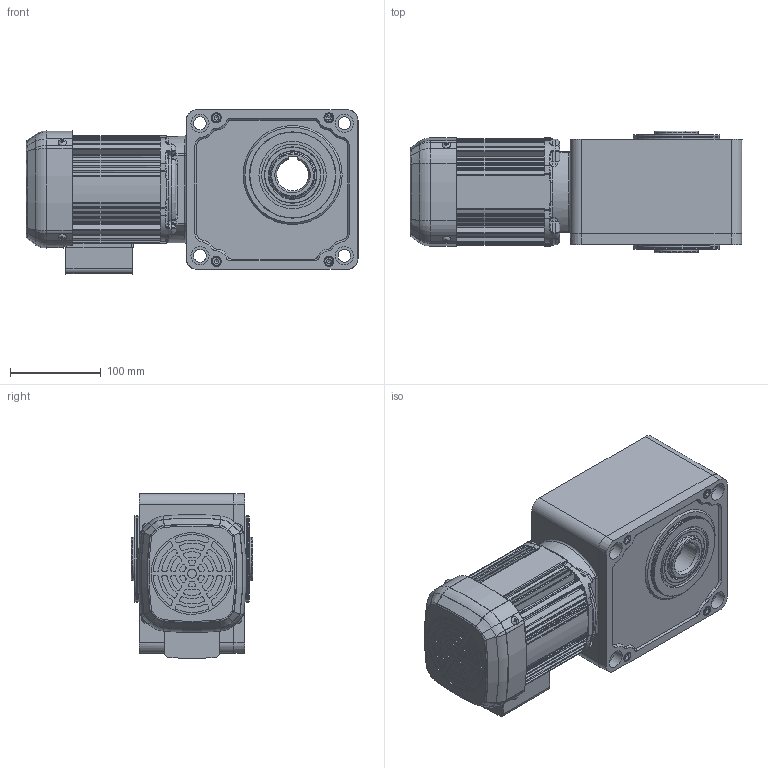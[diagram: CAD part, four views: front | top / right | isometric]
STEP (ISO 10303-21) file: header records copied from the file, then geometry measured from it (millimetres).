
FILE_DESCRIPTION( ( 'Unknown' ), '1' );
FILE_NAME( 'W:/gm/3D-WEB/GM-SHY/完成品/パーツ/完成品/三相/shyfrh_04_80-240.stp', 'Unknown', ( 'Unknown' ), ( 'Unknown' ), 'PSStep 11.0', 'Unknown', ' ' );
FILE_SCHEMA( ( 'AUTOMOTIVE_DESIGN { 1 0 10303 214 1 1 1 1 }' ) );
Length unit declared in the file: millimetre
Products named in the file (6): P728241_抂巕敔蔬
Bounding box: 365.5 x 134 x 181.38 mm (x, y, z)
Volume: 4063935.4 mm3; surface area: 475871 mm2
Topology: 6 solids, 17 shells, 1393 faces, 3488 edges, 2195 vertices
Faces by surface type: cylinder 578, plane 530, bspline 112, cone 87, torus 86
Full cylindrical faces by diameter (mm): 3.3 x4, 4 x4, 4.134 x8, 4.5 x8, 4.8 x4, 6 x6, 6.6 x4, 10 x5, 11 x4, 12 x2, 14 x4, 15 x1, 16 x1, 20 x8, 48 x4, 50 x2, 50.1 x1, 54 x1, 62 x4, 68 x2, 74 x2, 75 x1, 90 x1, 94.7 x2, 95 x4, 112.5 x1
Entity records: 64271 total; most frequent: CARTESIAN_POINT 20398, DIRECTION 7131, ORIENTED_EDGE 6548, EDGE_CURVE 3274, AXIS2_PLACEMENT_3D 2860, VERTEX_POINT 2140, EDGE_LOOP 1642, CIRCLE 1557
